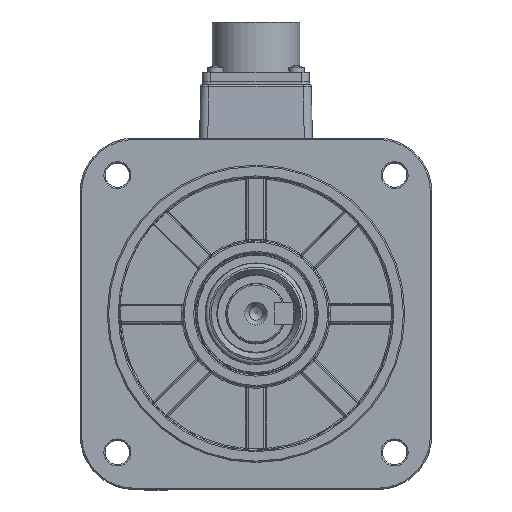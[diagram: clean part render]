
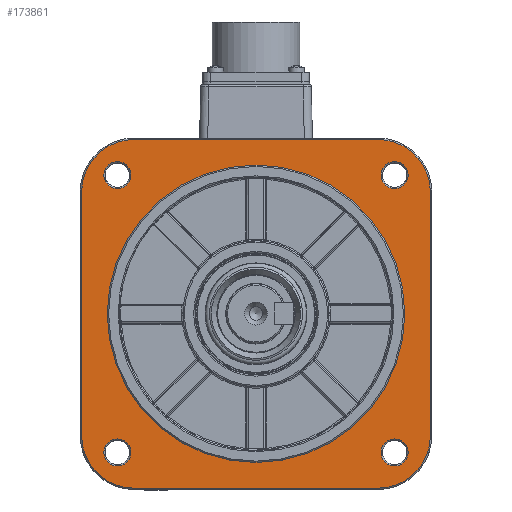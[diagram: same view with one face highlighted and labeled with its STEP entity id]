
A CAD part, top view. The second image highlights one B-rep face of the part: STEP entity #173861.
In plain terms, the highlighted planar face has unit normal (0, 0, 1).
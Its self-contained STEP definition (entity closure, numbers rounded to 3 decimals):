
#1262 = EDGE_CURVE ( 'NONE', #174932, #140034, #40825, .T. ) ;
#2321 = DIRECTION ( 'NONE',  ( 0., 0., 1. ) ) ;
#3491 = CARTESIAN_POINT ( 'NONE',  ( 55., 0., -5. ) ) ;
#3509 = EDGE_LOOP ( 'NONE', ( #210396 ) ) ;
#4056 = CIRCLE ( 'NONE', #158380, 5. ) ;
#4190 = ORIENTED_EDGE ( 'NONE', *, *, #82265, .F. ) ;
#9307 = CARTESIAN_POINT ( 'NONE',  ( -45., -64.5, -5. ) ) ;
#18736 = AXIS2_PLACEMENT_3D ( 'NONE', #68164, #121102, #52100 ) ;
#21345 = ORIENTED_EDGE ( 'NONE', *, *, #71779, .F. ) ;
#21959 = DIRECTION ( 'NONE',  ( 0., 0., 1. ) ) ;
#23745 = AXIS2_PLACEMENT_3D ( 'NONE', #173192, #175462, #155873 ) ;
#27644 = EDGE_CURVE ( 'NONE', #89984, #188343, #51057, .T. ) ;
#31370 = VERTEX_POINT ( 'NONE', #134892 ) ;
#31527 = DIRECTION ( 'NONE',  ( 0., 1., 0. ) ) ;
#32658 = ORIENTED_EDGE ( 'NONE', *, *, #113818, .F. ) ;
#34473 = CIRCLE ( 'NONE', #45459, 5. ) ;
#39193 = FACE_OUTER_BOUND ( 'NONE', #43116, .T. ) ;
#39300 = DIRECTION ( 'NONE',  ( 0., 0., 1. ) ) ;
#40176 = DIRECTION ( 'NONE',  ( 1., 0., 0. ) ) ;
#40825 = LINE ( 'NONE', #110914, #109217 ) ;
#42372 = ORIENTED_EDGE ( 'NONE', *, *, #151594, .F. ) ;
#42647 = AXIS2_PLACEMENT_3D ( 'NONE', #88948, #90073, #162655 ) ;
#43116 = EDGE_LOOP ( 'NONE', ( #94830, #32658, #54433, #135901, #142480, #42372, #154456, #66841 ) ) ;
#44257 = CIRCLE ( 'NONE', #217427, 19.5 ) ;
#44367 = DIRECTION ( 'NONE',  ( 0., 0., -1. ) ) ;
#45459 = AXIS2_PLACEMENT_3D ( 'NONE', #155563, #225804, #138262 ) ;
#48841 = DIRECTION ( 'NONE',  ( 0., 0., 1. ) ) ;
#50006 = CARTESIAN_POINT ( 'NONE',  ( 64.5, -45., -5. ) ) ;
#51057 = LINE ( 'NONE', #85476, #83045 ) ;
#52100 = DIRECTION ( 'NONE',  ( 1., 0., 0. ) ) ;
#52900 = CARTESIAN_POINT ( 'NONE',  ( -45., 64.5, -5. ) ) ;
#54141 = CARTESIAN_POINT ( 'NONE',  ( 0., 55., -5. ) ) ;
#54433 = ORIENTED_EDGE ( 'NONE', *, *, #125832, .F. ) ;
#63924 = EDGE_CURVE ( 'NONE', #99211, #99211, #78180, .T. ) ;
#66841 = ORIENTED_EDGE ( 'NONE', *, *, #125758, .F. ) ;
#68164 = CARTESIAN_POINT ( 'NONE',  ( 45., 45., -5. ) ) ;
#68668 = LINE ( 'NONE', #121596, #131739 ) ;
#69205 = VERTEX_POINT ( 'NONE', #122141 ) ;
#69635 = EDGE_LOOP ( 'NONE', ( #93771 ) ) ;
#71305 = DIRECTION ( 'NONE',  ( 1., 0., 0. ) ) ;
#71779 = EDGE_CURVE ( 'NONE', #31370, #31370, #119545, .T. ) ;
#72963 = DIRECTION ( 'NONE',  ( -1., 0., 0. ) ) ;
#77797 = CARTESIAN_POINT ( 'NONE',  ( 45., -64.5, -5. ) ) ;
#78180 = CIRCLE ( 'NONE', #214333, 5. ) ;
#79889 = CARTESIAN_POINT ( 'NONE',  ( -51.265, 51.265, -5. ) ) ;
#80548 = EDGE_LOOP ( 'NONE', ( #21345 ) ) ;
#82265 = EDGE_CURVE ( 'NONE', #69205, #69205, #4056, .T. ) ;
#83045 = VECTOR ( 'NONE', #31527, 1000. ) ;
#85476 = CARTESIAN_POINT ( 'NONE',  ( -64.5, -45., -5. ) ) ;
#88948 = CARTESIAN_POINT ( 'NONE',  ( 45., -45., -5. ) ) ;
#89386 = CARTESIAN_POINT ( 'NONE',  ( -51.265, -51.265, -5. ) ) ;
#89714 = FACE_BOUND ( 'NONE', #69635, .T. ) ;
#89984 = VERTEX_POINT ( 'NONE', #226669 ) ;
#90073 = DIRECTION ( 'NONE',  ( 0., 0., -1. ) ) ;
#93771 = ORIENTED_EDGE ( 'NONE', *, *, #224605, .F. ) ;
#93789 = AXIS2_PLACEMENT_3D ( 'NONE', #54141, #21959, #71305 ) ;
#94830 = ORIENTED_EDGE ( 'NONE', *, *, #1262, .F. ) ;
#99211 = VERTEX_POINT ( 'NONE', #102608 ) ;
#102608 = CARTESIAN_POINT ( 'NONE',  ( -46.265, -51.265, -5. ) ) ;
#104305 = DIRECTION ( 'NONE',  ( 1., 0., 0. ) ) ;
#109217 = VECTOR ( 'NONE', #72963, 1000. ) ;
#109286 = FACE_BOUND ( 'NONE', #211636, .T. ) ;
#109397 = DIRECTION ( 'NONE',  ( 1., 0., 0. ) ) ;
#110914 = CARTESIAN_POINT ( 'NONE',  ( 45., -64.5, -5. ) ) ;
#113818 = EDGE_CURVE ( 'NONE', #183798, #174932, #123898, .T. ) ;
#113864 = ORIENTED_EDGE ( 'NONE', *, *, #201396, .F. ) ;
#114469 = DIRECTION ( 'NONE',  ( 1., 0., 0. ) ) ;
#119545 = CIRCLE ( 'NONE', #160539, 5. ) ;
#121102 = DIRECTION ( 'NONE',  ( 0., 0., -1. ) ) ;
#121596 = CARTESIAN_POINT ( 'NONE',  ( 45., 64.5, -5. ) ) ;
#122141 = CARTESIAN_POINT ( 'NONE',  ( 56.265, 51.265, -5. ) ) ;
#122865 = CIRCLE ( 'NONE', #23745, 19.5 ) ;
#123898 = CIRCLE ( 'NONE', #42647, 19.5 ) ;
#125545 = CARTESIAN_POINT ( 'NONE',  ( 51.265, 51.265, -5. ) ) ;
#125758 = EDGE_CURVE ( 'NONE', #140034, #89984, #44257, .T. ) ;
#125832 = EDGE_CURVE ( 'NONE', #219533, #183798, #207729, .T. ) ;
#126298 = CARTESIAN_POINT ( 'NONE',  ( -64.5, 45., -5. ) ) ;
#127738 = FACE_BOUND ( 'NONE', #191802, .T. ) ;
#131739 = VECTOR ( 'NONE', #104305, 1000. ) ;
#134892 = CARTESIAN_POINT ( 'NONE',  ( -46.265, 51.265, -5. ) ) ;
#135901 = ORIENTED_EDGE ( 'NONE', *, *, #168858, .F. ) ;
#138262 = DIRECTION ( 'NONE',  ( 1., 0., 0. ) ) ;
#139480 = CARTESIAN_POINT ( 'NONE',  ( 64.5, 45., -5. ) ) ;
#140034 = VERTEX_POINT ( 'NONE', #9307 ) ;
#140423 = FACE_BOUND ( 'NONE', #3509, .T. ) ;
#142365 = DIRECTION ( 'NONE',  ( 0., 0., 1. ) ) ;
#142480 = ORIENTED_EDGE ( 'NONE', *, *, #146169, .F. ) ;
#143669 = CARTESIAN_POINT ( 'NONE',  ( 0., 0., -5. ) ) ;
#146169 = EDGE_CURVE ( 'NONE', #211887, #189259, #68668, .T. ) ;
#146286 = VERTEX_POINT ( 'NONE', #216577 ) ;
#149033 = CARTESIAN_POINT ( 'NONE',  ( -45., -45., -5. ) ) ;
#151594 = EDGE_CURVE ( 'NONE', #188343, #211887, #122865, .T. ) ;
#154456 = ORIENTED_EDGE ( 'NONE', *, *, #27644, .F. ) ;
#155563 = CARTESIAN_POINT ( 'NONE',  ( 51.265, -51.265, -5. ) ) ;
#155873 = DIRECTION ( 'NONE',  ( 1., 0., 0. ) ) ;
#158380 = AXIS2_PLACEMENT_3D ( 'NONE', #125545, #39300, #109397 ) ;
#159866 = VERTEX_POINT ( 'NONE', #3491 ) ;
#159973 = FACE_BOUND ( 'NONE', #80548, .T. ) ;
#160539 = AXIS2_PLACEMENT_3D ( 'NONE', #79889, #48841, #220412 ) ;
#162390 = DIRECTION ( 'NONE',  ( 0., -1., 0. ) ) ;
#162655 = DIRECTION ( 'NONE',  ( 1., 0., 0. ) ) ;
#168858 = EDGE_CURVE ( 'NONE', #189259, #219533, #180376, .T. ) ;
#169113 = VECTOR ( 'NONE', #162390, 1000. ) ;
#173192 = CARTESIAN_POINT ( 'NONE',  ( -45., 45., -5. ) ) ;
#173861 = ADVANCED_FACE ( 'NONE', ( #39193, #159973, #127738, #109286, #140423, #89714 ), #179585, .T. ) ;
#174932 = VERTEX_POINT ( 'NONE', #77797 ) ;
#175462 = DIRECTION ( 'NONE',  ( 0., 0., -1. ) ) ;
#175838 = CARTESIAN_POINT ( 'NONE',  ( 64.5, -45., -5. ) ) ;
#179585 = PLANE ( 'NONE',  #93789 ) ;
#180376 = CIRCLE ( 'NONE', #18736, 19.5 ) ;
#183798 = VERTEX_POINT ( 'NONE', #175838 ) ;
#188343 = VERTEX_POINT ( 'NONE', #126298 ) ;
#189259 = VERTEX_POINT ( 'NONE', #193314 ) ;
#191802 = EDGE_LOOP ( 'NONE', ( #4190 ) ) ;
#193314 = CARTESIAN_POINT ( 'NONE',  ( 45., 64.5, -5. ) ) ;
#194256 = DIRECTION ( 'NONE',  ( 1., 0., 0. ) ) ;
#201396 = EDGE_CURVE ( 'NONE', #146286, #146286, #34473, .T. ) ;
#207729 = LINE ( 'NONE', #50006, #169113 ) ;
#210396 = ORIENTED_EDGE ( 'NONE', *, *, #63924, .F. ) ;
#211565 = AXIS2_PLACEMENT_3D ( 'NONE', #143669, #2321, #40176 ) ;
#211636 = EDGE_LOOP ( 'NONE', ( #113864 ) ) ;
#211887 = VERTEX_POINT ( 'NONE', #52900 ) ;
#214333 = AXIS2_PLACEMENT_3D ( 'NONE', #89386, #142365, #194256 ) ;
#216577 = CARTESIAN_POINT ( 'NONE',  ( 56.265, -51.265, -5. ) ) ;
#217427 = AXIS2_PLACEMENT_3D ( 'NONE', #149033, #44367, #114469 ) ;
#219533 = VERTEX_POINT ( 'NONE', #139480 ) ;
#220412 = DIRECTION ( 'NONE',  ( 1., 0., 0. ) ) ;
#224605 = EDGE_CURVE ( 'NONE', #159866, #159866, #226142, .T. ) ;
#225804 = DIRECTION ( 'NONE',  ( 0., 0., 1. ) ) ;
#226142 = CIRCLE ( 'NONE', #211565, 55. ) ;
#226669 = CARTESIAN_POINT ( 'NONE',  ( -64.5, -45., -5. ) ) ;
